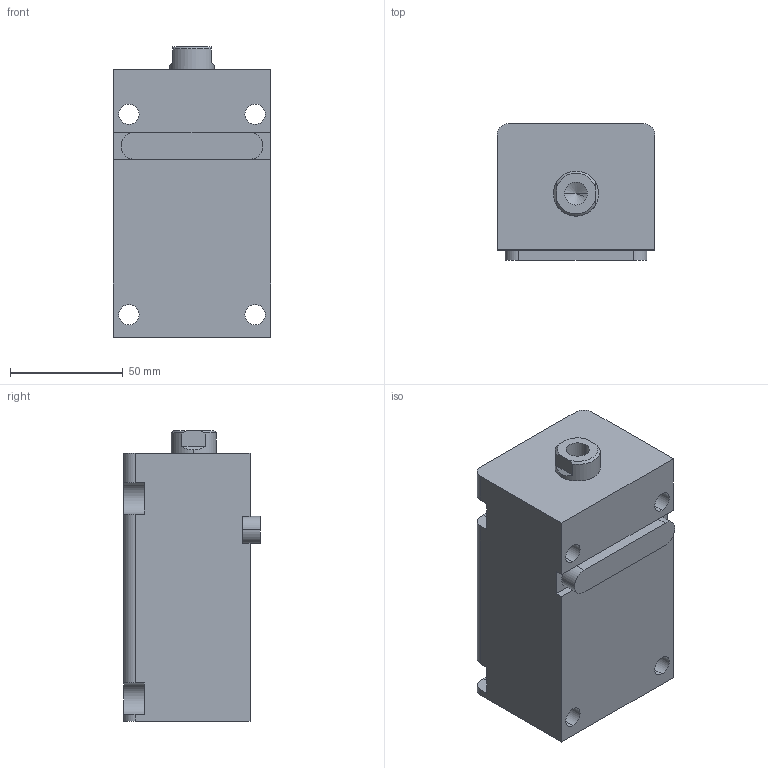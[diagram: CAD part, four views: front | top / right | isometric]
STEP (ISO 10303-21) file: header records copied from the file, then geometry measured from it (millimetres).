
FILE_DESCRIPTION (( 'STEP AP203' ), '1' );
FILE_NAME ('HTB-LA32-65N.STEP', '2019-10-09T06:29:37', ( '微软用户' ), ( '微软中国' ), 'SwSTEP 2.0', 'SolidWorks 2012', '' );
FILE_SCHEMA (( 'CONFIG_CONTROL_DESIGN' ));
Length unit declared in the file: millimetre
Products named in the file (4): HTB-LA32-65N; HTB-LA32-65N活塞杆; HTB-LA32-瑩; HTB-LA32-65掛极
Assembly tree (3 placements, depth 2):
  HTB-LA32-65N
    HTB-LA32-65掛极
    HTB-LA32-65N活塞杆
    HTB-LA32-瑩
Bounding box: 70 x 60.5 x 129 mm (x, y, z)
Volume: 417894.5 mm3; surface area: 67719.2 mm2
Topology: 3 solids, 3 shells, 88 faces, 217 edges, 141 vertices
Faces by surface type: plane 39, cylinder 35, cone 8, torus 6
Entity records: 3053 total; most frequent: DIRECTION 487, CARTESIAN_POINT 478, ORIENTED_EDGE 430, EDGE_CURVE 215, AXIS2_PLACEMENT_3D 186, VERTEX_POINT 141, LINE 115, VECTOR 115
